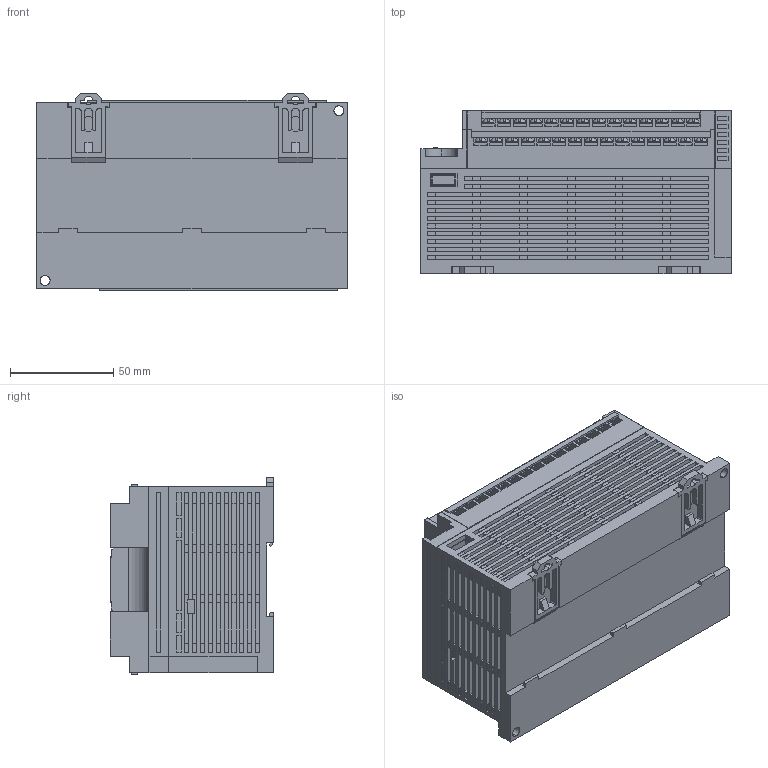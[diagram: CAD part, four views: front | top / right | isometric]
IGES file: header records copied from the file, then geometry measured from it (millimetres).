
Global section: preprocessor: SolidWorks 2010; date: 120213.170436; units: millimetre
Bounding box: 150 x 79.02 x 95.5 mm (x, y, z)
Surface area: 117561.8 mm2 (no closed solid volume)
Topology: 0 solids, 0 shells, 3633 faces, 28036 edges, 28036 vertices
Faces by surface type: bspline 3348, revolution 285
